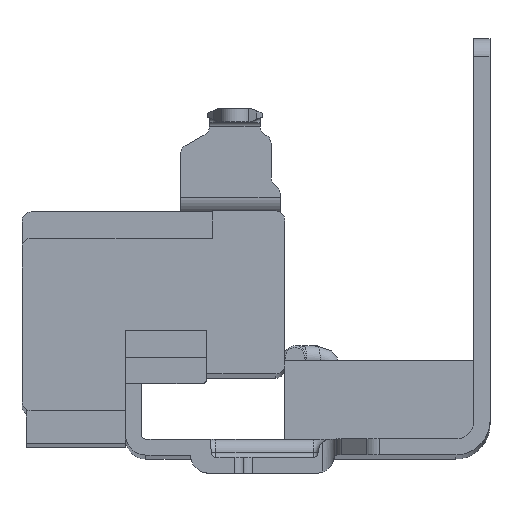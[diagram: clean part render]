
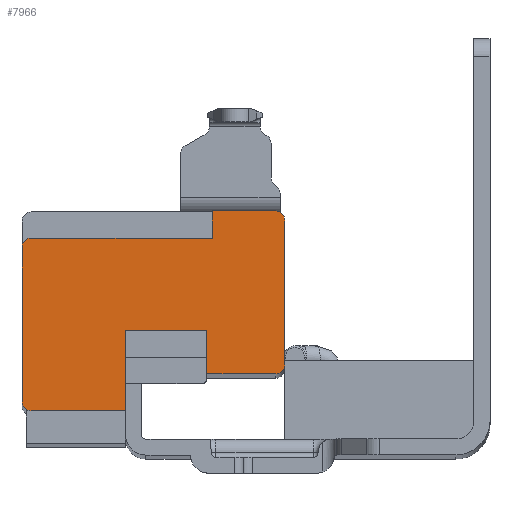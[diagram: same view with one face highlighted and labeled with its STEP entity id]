
A CAD part, top view. The second image highlights one B-rep face of the part: STEP entity #7966.
In plain terms, the highlighted planar face has unit normal (0, 0, 1).
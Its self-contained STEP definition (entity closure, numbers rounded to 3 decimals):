
#77 = CIRCLE ( 'NONE', #3044, 1. ) ;
#287 = DIRECTION ( 'NONE',  ( 0., 0., -1. ) ) ;
#409 = ORIENTED_EDGE ( 'NONE', *, *, #982, .F. ) ;
#436 = VECTOR ( 'NONE', #732, 1000. ) ;
#478 = VERTEX_POINT ( 'NONE', #6251 ) ;
#701 = CARTESIAN_POINT ( 'NONE',  ( 51.26, -12.102, -18.7 ) ) ;
#711 = LINE ( 'NONE', #701, #4830 ) ;
#732 = DIRECTION ( 'NONE',  ( 1., 0., 0. ) ) ;
#758 = LINE ( 'NONE', #6423, #10145 ) ;
#982 = EDGE_CURVE ( 'NONE', #7267, #7963, #7668, .T. ) ;
#1135 = VERTEX_POINT ( 'NONE', #8218 ) ;
#1171 = EDGE_CURVE ( 'NONE', #11254, #8780, #8617, .T. ) ;
#1312 = PLANE ( 'NONE',  #1614 ) ;
#1318 = LINE ( 'NONE', #6501, #3392 ) ;
#1545 = LINE ( 'NONE', #10878, #10662 ) ;
#1592 = CARTESIAN_POINT ( 'NONE',  ( 42.26, -19.352, -18.7 ) ) ;
#1614 = AXIS2_PLACEMENT_3D ( 'NONE', #7472, #2211, #8359 ) ;
#1848 = CARTESIAN_POINT ( 'NONE',  ( 31.8, -1.222, -18.7 ) ) ;
#1857 = EDGE_CURVE ( 'NONE', #10448, #5569, #758, .T. ) ;
#1961 = EDGE_CURVE ( 'NONE', #8780, #5450, #11393, .T. ) ;
#2077 = CARTESIAN_POINT ( 'NONE',  ( 51.86, -0.252, -18.7 ) ) ;
#2078 = AXIS2_PLACEMENT_3D ( 'NONE', #3648, #2795, #8952 ) ;
#2211 = DIRECTION ( 'NONE',  ( 0., 0., 1. ) ) ;
#2671 = VECTOR ( 'NONE', #3727, 1000. ) ;
#2752 = DIRECTION ( 'NONE',  ( -1., 0., 0. ) ) ;
#2795 = DIRECTION ( 'NONE',  ( 0., 0., -1. ) ) ;
#2886 = VERTEX_POINT ( 'NONE', #3890 ) ;
#2991 = VECTOR ( 'NONE', #5771, 1000. ) ;
#3015 = VERTEX_POINT ( 'NONE', #8568 ) ;
#3044 = AXIS2_PLACEMENT_3D ( 'NONE', #5527, #287, #6435 ) ;
#3299 = ORIENTED_EDGE ( 'NONE', *, *, #1857, .F. ) ;
#3392 = VECTOR ( 'NONE', #10084, 1000. ) ;
#3396 = CARTESIAN_POINT ( 'NONE',  ( 54.06, 2.748, -18.7 ) ) ;
#3454 = CARTESIAN_POINT ( 'NONE',  ( 59.86, -14.252, -18.7 ) ) ;
#3468 = DIRECTION ( 'NONE',  ( 0., 0., -1. ) ) ;
#3507 = EDGE_CURVE ( 'NONE', #7267, #4214, #1545, .T. ) ;
#3605 = CARTESIAN_POINT ( 'NONE',  ( 51.86, -0.252, -18.7 ) ) ;
#3648 = CARTESIAN_POINT ( 'NONE',  ( 31.83, -18.352, -18.7 ) ) ;
#3699 = EDGE_CURVE ( 'NONE', #3856, #11254, #5386, .T. ) ;
#3725 = DIRECTION ( 'NONE',  ( -1., 0., 0. ) ) ;
#3727 = DIRECTION ( 'NONE',  ( 1., 0., 0. ) ) ;
#3851 = ORIENTED_EDGE ( 'NONE', *, *, #10285, .F. ) ;
#3856 = VERTEX_POINT ( 'NONE', #5646 ) ;
#3890 = CARTESIAN_POINT ( 'NONE',  ( 30.83, -1.222, -18.7 ) ) ;
#4123 = VECTOR ( 'NONE', #7739, 1000. ) ;
#4183 = LINE ( 'NONE', #9897, #2671 ) ;
#4214 = VERTEX_POINT ( 'NONE', #10788 ) ;
#4551 = ORIENTED_EDGE ( 'NONE', *, *, #7781, .F. ) ;
#4830 = VECTOR ( 'NONE', #5985, 1000. ) ;
#4848 = VECTOR ( 'NONE', #7756, 1000. ) ;
#5386 = LINE ( 'NONE', #1592, #4848 ) ;
#5395 = ORIENTED_EDGE ( 'NONE', *, *, #8333, .F. ) ;
#5450 = VERTEX_POINT ( 'NONE', #5764 ) ;
#5507 = ORIENTED_EDGE ( 'NONE', *, *, #8136, .F. ) ;
#5527 = CARTESIAN_POINT ( 'NONE',  ( 58.86, -14.252, -18.7 ) ) ;
#5559 = ORIENTED_EDGE ( 'NONE', *, *, #8120, .F. ) ;
#5569 = VERTEX_POINT ( 'NONE', #3454 ) ;
#5646 = CARTESIAN_POINT ( 'NONE',  ( 42.26, -10.437, -18.7 ) ) ;
#5659 = VERTEX_POINT ( 'NONE', #8853 ) ;
#5764 = CARTESIAN_POINT ( 'NONE',  ( 30.83, -18.352, -18.7 ) ) ;
#5771 = DIRECTION ( 'NONE',  ( 0., 1., 0. ) ) ;
#5879 = AXIS2_PLACEMENT_3D ( 'NONE', #8725, #3468, #9641 ) ;
#5936 = CARTESIAN_POINT ( 'NONE',  ( 31.83, -19.352, -18.7 ) ) ;
#5985 = DIRECTION ( 'NONE',  ( 0., 1., 0. ) ) ;
#5999 = ORIENTED_EDGE ( 'NONE', *, *, #8847, .F. ) ;
#6176 = EDGE_CURVE ( 'NONE', #3856, #3015, #4183, .T. ) ;
#6251 = CARTESIAN_POINT ( 'NONE',  ( 51.26, -15.252, -18.7 ) ) ;
#6298 = ORIENTED_EDGE ( 'NONE', *, *, #6176, .T. ) ;
#6423 = CARTESIAN_POINT ( 'NONE',  ( 59.86, -6.222, -18.7 ) ) ;
#6435 = DIRECTION ( 'NONE',  ( -1., 0., 0. ) ) ;
#6501 = CARTESIAN_POINT ( 'NONE',  ( 30.83, -13.752, -18.7 ) ) ;
#6896 = LINE ( 'NONE', #3396, #436 ) ;
#6924 = ORIENTED_EDGE ( 'NONE', *, *, #1171, .F. ) ;
#6968 = EDGE_LOOP ( 'NONE', ( #5395, #3851, #3299, #5999, #5507, #409, #11243, #4551, #9985, #7699, #6924, #9134, #6298, #5559 ) ) ;
#6997 = CIRCLE ( 'NONE', #5879, 1. ) ;
#7152 = AXIS2_PLACEMENT_3D ( 'NONE', #1848, #8003, #2752 ) ;
#7212 = CARTESIAN_POINT ( 'NONE',  ( 42.26, -19.352, -18.7 ) ) ;
#7267 = VERTEX_POINT ( 'NONE', #3605 ) ;
#7321 = DIRECTION ( 'NONE',  ( 0., -1., 0. ) ) ;
#7472 = CARTESIAN_POINT ( 'NONE',  ( 31.83, -13.752, -18.7 ) ) ;
#7600 = CIRCLE ( 'NONE', #7152, 0.97 ) ;
#7668 = LINE ( 'NONE', #2077, #2991 ) ;
#7699 = ORIENTED_EDGE ( 'NONE', *, *, #1961, .F. ) ;
#7739 = DIRECTION ( 'NONE',  ( -1., 0., 0. ) ) ;
#7756 = DIRECTION ( 'NONE',  ( 0., -1., 0. ) ) ;
#7781 = EDGE_CURVE ( 'NONE', #2886, #4214, #7600, .T. ) ;
#7963 = VERTEX_POINT ( 'NONE', #11016 ) ;
#7966 = ADVANCED_FACE ( 'NONE', ( #8825 ), #1312, .T. ) ;
#8003 = DIRECTION ( 'NONE',  ( 0., 0., -1. ) ) ;
#8120 = EDGE_CURVE ( 'NONE', #478, #3015, #711, .T. ) ;
#8136 = EDGE_CURVE ( 'NONE', #7963, #5659, #6896, .T. ) ;
#8218 = CARTESIAN_POINT ( 'NONE',  ( 58.86, -15.252, -18.7 ) ) ;
#8333 = EDGE_CURVE ( 'NONE', #1135, #478, #11177, .T. ) ;
#8345 = VECTOR ( 'NONE', #3725, 1000. ) ;
#8359 = DIRECTION ( 'NONE',  ( -1., 0., 0. ) ) ;
#8568 = CARTESIAN_POINT ( 'NONE',  ( 51.26, -10.437, -18.7 ) ) ;
#8617 = LINE ( 'NONE', #10794, #8345 ) ;
#8725 = CARTESIAN_POINT ( 'NONE',  ( 58.86, 1.748, -18.7 ) ) ;
#8780 = VERTEX_POINT ( 'NONE', #5936 ) ;
#8825 = FACE_OUTER_BOUND ( 'NONE', #6968, .T. ) ;
#8847 = EDGE_CURVE ( 'NONE', #5659, #10448, #6997, .T. ) ;
#8853 = CARTESIAN_POINT ( 'NONE',  ( 58.86, 2.748, -18.7 ) ) ;
#8952 = DIRECTION ( 'NONE',  ( -1., 0., 0. ) ) ;
#9134 = ORIENTED_EDGE ( 'NONE', *, *, #3699, .F. ) ;
#9641 = DIRECTION ( 'NONE',  ( -1., 0., 0. ) ) ;
#9897 = CARTESIAN_POINT ( 'NONE',  ( 44.03, -10.437, -18.7 ) ) ;
#9985 = ORIENTED_EDGE ( 'NONE', *, *, #10321, .F. ) ;
#10016 = DIRECTION ( 'NONE',  ( -1., 0., 0. ) ) ;
#10084 = DIRECTION ( 'NONE',  ( 0., 1., 0. ) ) ;
#10145 = VECTOR ( 'NONE', #7321, 1000. ) ;
#10285 = EDGE_CURVE ( 'NONE', #5569, #1135, #77, .T. ) ;
#10321 = EDGE_CURVE ( 'NONE', #5450, #2886, #1318, .T. ) ;
#10448 = VERTEX_POINT ( 'NONE', #11060 ) ;
#10662 = VECTOR ( 'NONE', #10016, 1000. ) ;
#10788 = CARTESIAN_POINT ( 'NONE',  ( 31.8, -0.252, -18.7 ) ) ;
#10794 = CARTESIAN_POINT ( 'NONE',  ( 31.83, -19.352, -18.7 ) ) ;
#10878 = CARTESIAN_POINT ( 'NONE',  ( 61.66, -0.252, -18.7 ) ) ;
#11016 = CARTESIAN_POINT ( 'NONE',  ( 51.86, 2.748, -18.7 ) ) ;
#11060 = CARTESIAN_POINT ( 'NONE',  ( 59.86, 1.748, -18.7 ) ) ;
#11177 = LINE ( 'NONE', #11282, #4123 ) ;
#11243 = ORIENTED_EDGE ( 'NONE', *, *, #3507, .T. ) ;
#11254 = VERTEX_POINT ( 'NONE', #7212 ) ;
#11282 = CARTESIAN_POINT ( 'NONE',  ( 55.79, -15.252, -18.7 ) ) ;
#11393 = CIRCLE ( 'NONE', #2078, 1. ) ;
